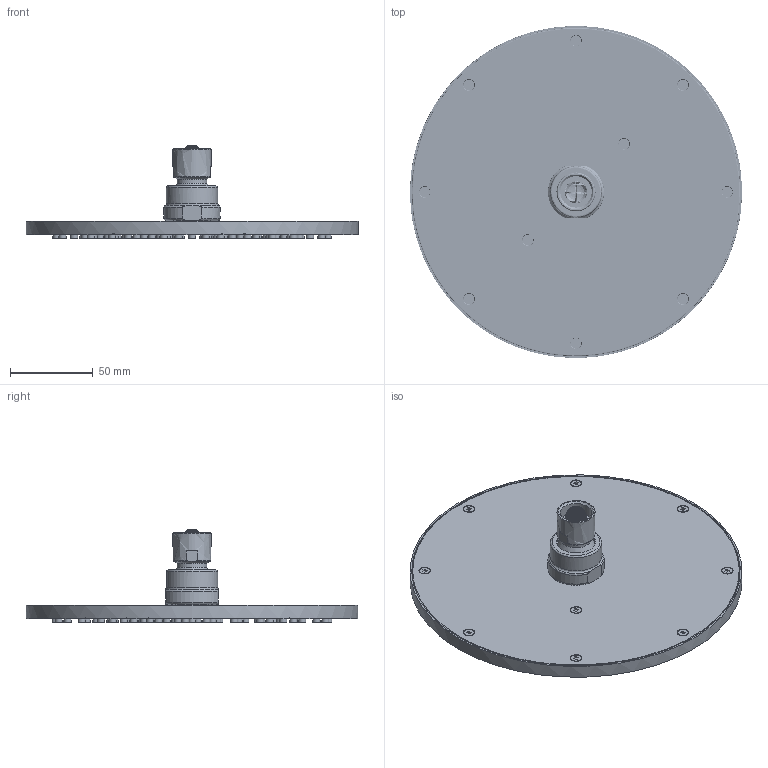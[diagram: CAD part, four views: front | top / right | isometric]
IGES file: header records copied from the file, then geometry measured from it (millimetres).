
Global section: file name: 2878608c-db94-49b0-9c9a-75443968d396; native system: unknown; preprocessor: unknown; author: unknown; organization: unknown; date: 20200630.083812; units: millimetre
Bounding box: 200.8 x 200.74 x 56.66 mm (x, y, z)
Volume: 63082.4 mm3; surface area: 154942 mm2
Topology: 111 solids, 111 shells, 2246 faces, 7843 edges, 4973 vertices
Faces by surface type: bspline 2246
